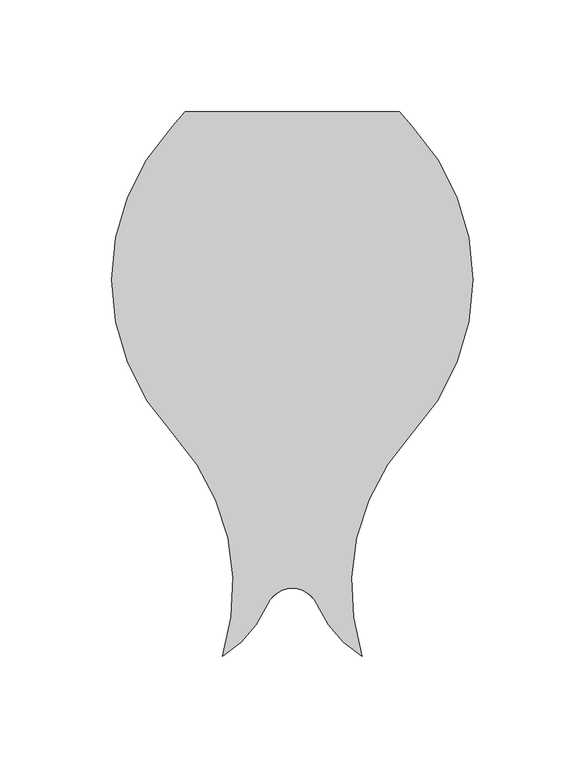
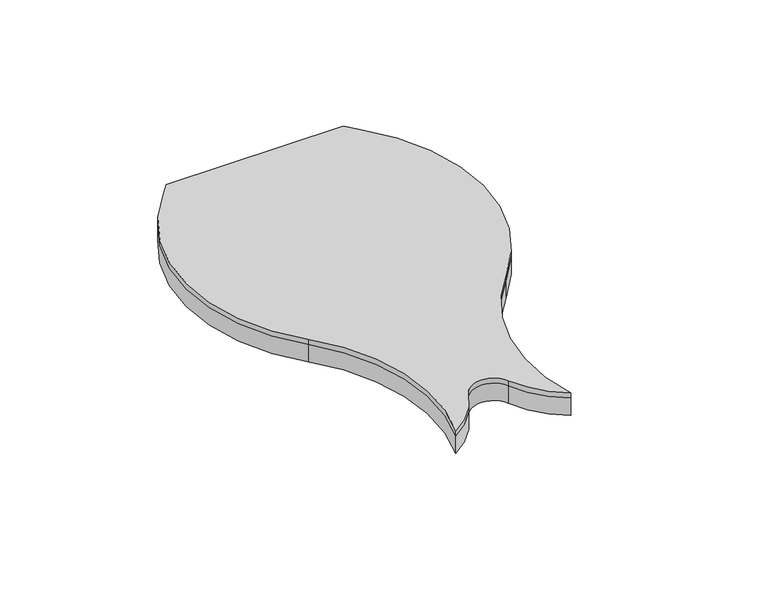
"""IFC4 building model written with IfcOpenShell, lengths in millimetres: proxy geometry, FilzFelt_Fish_Block : Fish Block."""

from ifc_helpers import new_model, si_unit, frame, origin, place, context, project, spatial, polyline, circle_curve, source, transform, mapped, element, save
from ifc_brep_helpers import plane_surface, cylinder_surface, revolved_surface, advanced_brep


def specialty_equipment_c6b61611(model_context):
    return source(origin(), model_context, "Body", "AdvancedBrep", [
        advanced_brep(
        [(53.5486457, 68.6120133, 10.0210937), (53.5486457, -68.6120133, 10.0210937), (31.2619065, -168.1141956, 10.0210937), (11.0103348, -145.0347036, 10.0210937), (-11.0103348, -145.0347036, 10.0210937), (-31.2619065, -168.1141956, 10.0210937), (-53.5486457, -68.6120133, 10.0210937), (-80.7142226, 0.0, 10.0210937), (-53.5486457, 68.6120133, 10.0210937), (-47.9842821, 75.0666515, 10.0210937), (47.9842821, 75.0666515, 10.0210937), (-53.5486457, -68.6120133, 12.9976563), (-31.2619065, -168.1141956, 12.9976563), (-11.0103348, -145.0347036, 12.9976563), (11.0103348, -145.0347036, 12.9976563), (31.2619065, -168.1141956, 12.9976563), (53.5486457, -68.6120133, 12.9976563), (80.7142226, 0.0, 12.9976563), (53.5486457, 68.6120133, 12.9976563), (47.9842821, 75.0666515, 12.9976563), (-47.9842821, 75.0666515, 12.9976563), (-53.5486457, 68.6120133, 12.9976563), (-80.7142226, 0.0, 12.9976563)],
        [
            (0, 1, circle_curve(frame((-19.5151403, 0.0, 10.0210937), z_axis=(0.0, 0.0, -1.0), x_axis=(-1.0, 0.0, 0.0)), 100.2293629)),
            (1, 2, circle_curve(frame((126.6124317, -137.2240266, 10.0210937), z_axis=(0.0, 0.0, 1.0), x_axis=(-1.0, 0.0, 0.0)), 100.2293629)),
            (2, 3, circle_curve(frame((57.9263497, -124.2921115, 10.0210937), z_axis=(0.0, 0.0, -1.0), x_axis=(-1.0, 0.0, 0.0)), 51.2968574)),
            (3, 4, circle_curve(frame((0.0, -149.9026124, 10.0210937), z_axis=(0.0, 0.0, 1.0), x_axis=(-1.0, 0.0, 0.0)), 12.0384388)),
            (4, 5, circle_curve(frame((-57.9263497, -124.2921115, 10.0210937), z_axis=(0.0, 0.0, -1.0), x_axis=(-1.0, 0.0, 0.0)), 51.2968574)),
            (5, 6, circle_curve(frame((-126.6124317, -137.2240266, 10.0210937), z_axis=(0.0, 0.0, 1.0), x_axis=(-1.0, 0.0, 0.0)), 100.2293629)),
            (6, 7, circle_curve(frame((19.5151403, 0.0, 10.0210937), z_axis=(0.0, 0.0, -1.0), x_axis=(-1.0, 0.0, 0.0)), 100.2293629)),
            (7, 8, circle_curve(frame((19.5151403, 0.0, 10.0210937), z_axis=(0.0, 0.0, -1.0), x_axis=(-1.0, 0.0, 0.0)), 100.2293629)),
            (8, 9, circle_curve(frame((-126.6124317, 137.2240266, 10.0210937), z_axis=(0.0, 0.0, 1.0), x_axis=(-1.0, 0.0, 0.0)), 100.2293629)),
            (9, 10),
            (10, 0, circle_curve(frame((126.6124317, 137.2240266, 10.0210937), z_axis=(0.0, 0.0, 1.0), x_axis=(-1.0, 0.0, 0.0)), 100.2293629)),
            (11, 12, circle_curve(frame((-126.6124317, -137.2240266, 12.9976563), z_axis=(0.0, 0.0, -1.0), x_axis=(-1.0, 0.0, 0.0)), 100.2293629)),
            (12, 13, circle_curve(frame((-57.9263497, -124.2921115, 12.9976563), z_axis=(0.0, 0.0, 1.0), x_axis=(-1.0, 0.0, 0.0)), 51.2968574)),
            (13, 14, circle_curve(frame((0.0, -149.9026124, 12.9976563), z_axis=(0.0, 0.0, -1.0), x_axis=(-1.0, 0.0, 0.0)), 12.0384388)),
            (14, 15, circle_curve(frame((57.9263497, -124.2921115, 12.9976563), z_axis=(0.0, 0.0, 1.0), x_axis=(-1.0, 0.0, 0.0)), 51.2968574)),
            (15, 16, circle_curve(frame((126.6124317, -137.2240266, 12.9976563), z_axis=(0.0, 0.0, -1.0), x_axis=(-1.0, 0.0, 0.0)), 100.2293629)),
            (16, 17, circle_curve(frame((-19.5151403, 0.0, 12.9976563), z_axis=(0.0, 0.0, 1.0), x_axis=(-1.0, 0.0, 0.0)), 100.2293629)),
            (17, 18, circle_curve(frame((-19.5151403, 0.0, 12.9976563), z_axis=(0.0, 0.0, 1.0), x_axis=(-1.0, 0.0, 0.0)), 100.2293629)),
            (18, 19, circle_curve(frame((126.6124317, 137.2240266, 12.9976563), z_axis=(0.0, 0.0, -1.0), x_axis=(-1.0, 0.0, 0.0)), 100.2293629)),
            (19, 20),
            (20, 21, circle_curve(frame((-126.6124317, 137.2240266, 12.9976563), z_axis=(0.0, 0.0, -1.0), x_axis=(-1.0, 0.0, 0.0)), 100.2293629)),
            (21, 22, circle_curve(frame((19.5151403, 0.0, 12.9976563), z_axis=(0.0, 0.0, 1.0), x_axis=(-1.0, 0.0, 0.0)), 100.2293629)),
            (22, 11, circle_curve(frame((19.5151403, 0.0, 12.9976563), z_axis=(0.0, 0.0, 1.0), x_axis=(-1.0, 0.0, 0.0)), 100.2293629)),
            (0, 18),
            (16, 1),
            (15, 2),
            (14, 3),
            (13, 4),
            (12, 5),
            (11, 6),
            (21, 8),
            (20, 9),
            (10, 19),
        ],
        [
            plane_surface(frame((0.0, 0.0, 10.0210937), z_axis=(0.0, 0.0, -1.0), x_axis=(0.0, -1.0, 0.0))),
            plane_surface(frame((0.0, 0.0, 12.9976563), z_axis=(0.0, 0.0, 1.0), x_axis=(0.0, -1.0, 0.0))),
            cylinder_surface(frame((-19.5151403, 0.0, 10.0210937), z_axis=(0.0, 0.0, -1.0), x_axis=(-1.0, 0.0, 0.0)), 100.2293629),
            revolved_surface(polyline([(26.383068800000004, -137.2240266, 12.9976563), (26.383068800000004, -137.2240266, 10.0210937)]), (126.6124317, -137.2240266, 10.0210937), (0.0, 0.0, 1.0)),
            cylinder_surface(frame((57.9263497, -124.2921115, 10.0210937), z_axis=(0.0, 0.0, -1.0), x_axis=(-1.0, 0.0, 0.0)), 51.2968574),
            revolved_surface(polyline([(-12.0384388, -149.9026124, 12.9976563), (-12.0384388, -149.9026124, 10.0210937)]), (0.0, -149.9026124, 10.0210937), (0.0, 0.0, 1.0)),
            cylinder_surface(frame((-57.9263497, -124.2921115, 10.0210937), z_axis=(0.0, 0.0, -1.0), x_axis=(-1.0, 0.0, 0.0)), 51.2968574),
            revolved_surface(polyline([(-226.84179460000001, -137.2240266, 12.9976563), (-226.84179460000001, -137.2240266, 10.0210937)]), (-126.6124317, -137.2240266, 10.0210937), (0.0, 0.0, 1.0)),
            cylinder_surface(frame((19.5151403, 0.0, 10.0210937), z_axis=(0.0, 0.0, -1.0), x_axis=(-1.0, 0.0, 0.0)), 100.2293629),
            revolved_surface(polyline([(-226.84179460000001, 137.2240266, 12.9976563), (-226.84179460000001, 137.2240266, 10.0210937)]), (-126.6124317, 137.2240266, 10.0210937), (0.0, 0.0, 1.0)),
            revolved_surface(polyline([(26.383068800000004, 137.2240266, 12.9976563), (26.383068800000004, 137.2240266, 10.0210937)]), (126.6124317, 137.2240266, 10.0210937), (0.0, 0.0, 1.0)),
            plane_surface(frame((-112.4642226, 75.0666515, 12.9976562), z_axis=(0.0, 1.0, 0.0), x_axis=(-1.0, 0.0, 0.0))),
        ],
        [
            (0, [[1, 2, 3, 4, 5, 6, 7, 8, 9, 10, 11]]),
            (1, [[12, 13, 14, 15, 16, 17, 18, 19, 20, 21, 22, 23]]),
            (2, [[-1, 24, -18, -17, 25]]),
            (3, [[-2, -25, -16, 26]]),
            (4, [[-3, -26, -15, 27]]),
            (5, [[-4, -27, -14, 28]]),
            (6, [[-5, -28, -13, 29]]),
            (7, [[-6, -29, -12, 30]]),
            (8, [[-30, -23, -22, 31, -8, -7]]),
            (9, [[-31, -21, 32, -9]]),
            (10, [[-24, -11, 33, -19]]),
            (11, [[-10, -32, -20, -33]]),
        ],
    ),
        advanced_brep(
        [(31.2619065, -168.1141956, 0.0), (11.0103348, -145.0347036, 0.0), (-11.0103348, -145.0347036, 0.0), (-31.2619065, -168.1141956, 0.0), (-53.5486457, -68.6120133, 0.0), (-80.7142226, 0.0, 0.0), (-53.5486457, 68.6120133, 0.0), (-47.9842821, 75.0666515, 0.0), (47.9842821, 75.0666515, 0.0), (53.5486457, 68.6120133, 0.0), (80.7142226, 0.0, 0.0), (53.5486457, -68.6120133, 0.0), (31.2619065, -168.1141956, 10.0210937), (53.5486457, -68.6120133, 10.0210937), (53.5486457, 68.6120133, 10.0210937), (47.9842821, 75.0666515, 10.0210937), (-47.9842821, 75.0666515, 10.0210937), (-53.5486457, 68.6120133, 10.0210937), (-80.7142226, 0.0, 10.0210937), (-53.5486457, -68.6120133, 10.0210937), (-31.2619065, -168.1141956, 10.0210937), (-11.0103348, -145.0347036, 10.0210937), (11.0103348, -145.0347036, 10.0210937)],
        [
            (0, 1, circle_curve(frame((57.9263497, -124.2921115, 0.0), z_axis=(0.0, 0.0, -1.0), x_axis=(-1.0, 0.0, 0.0)), 51.2968574)),
            (1, 2, circle_curve(frame((0.0, -149.9026124, 0.0), z_axis=(0.0, 0.0, 1.0), x_axis=(-1.0, 0.0, 0.0)), 12.0384388)),
            (2, 3, circle_curve(frame((-57.9263497, -124.2921115, 0.0), z_axis=(0.0, 0.0, -1.0), x_axis=(-1.0, 0.0, 0.0)), 51.2968574)),
            (3, 4, circle_curve(frame((-126.6124317, -137.2240266, 0.0), z_axis=(0.0, 0.0, 1.0), x_axis=(-1.0, 0.0, 0.0)), 100.2293629)),
            (4, 5, circle_curve(frame((19.5151403, 0.0, 0.0), z_axis=(0.0, 0.0, -1.0), x_axis=(-1.0, 0.0, 0.0)), 100.2293629)),
            (5, 6, circle_curve(frame((19.5151403, 0.0, 0.0), z_axis=(0.0, 0.0, -1.0), x_axis=(-1.0, 0.0, 0.0)), 100.2293629)),
            (6, 7, circle_curve(frame((-126.6124317, 137.2240266, 0.0), z_axis=(0.0, 0.0, 1.0), x_axis=(-1.0, 0.0, 0.0)), 100.2293629)),
            (7, 8),
            (8, 9, circle_curve(frame((126.6124317, 137.2240266, 0.0), z_axis=(0.0, 0.0, 1.0), x_axis=(-1.0, 0.0, 0.0)), 100.2293629)),
            (9, 10, circle_curve(frame((-19.5151403, 0.0, 0.0), z_axis=(0.0, 0.0, -1.0), x_axis=(-1.0, 0.0, 0.0)), 100.2293629)),
            (10, 11, circle_curve(frame((-19.5151403, 0.0, 0.0), z_axis=(0.0, 0.0, -1.0), x_axis=(-1.0, 0.0, 0.0)), 100.2293629)),
            (11, 0, circle_curve(frame((126.6124317, -137.2240266, 0.0), z_axis=(0.0, 0.0, 1.0), x_axis=(-1.0, 0.0, 0.0)), 100.2293629)),
            (12, 13, circle_curve(frame((126.6124317, -137.2240266, 10.0210937), z_axis=(0.0, 0.0, -1.0), x_axis=(-1.0, 0.0, 0.0)), 100.2293629)),
            (13, 14, circle_curve(frame((-19.5151403, 0.0, 10.0210937), z_axis=(0.0, 0.0, 1.0), x_axis=(-1.0, 0.0, 0.0)), 100.2293629)),
            (14, 15, circle_curve(frame((126.6124317, 137.2240266, 10.0210937), z_axis=(0.0, 0.0, -1.0), x_axis=(-1.0, 0.0, 0.0)), 100.2293629)),
            (15, 16),
            (16, 17, circle_curve(frame((-126.6124317, 137.2240266, 10.0210937), z_axis=(0.0, 0.0, -1.0), x_axis=(-1.0, 0.0, 0.0)), 100.2293629)),
            (17, 18, circle_curve(frame((19.5151403, 0.0, 10.0210937), z_axis=(0.0, 0.0, 1.0), x_axis=(-1.0, 0.0, 0.0)), 100.2293629)),
            (18, 19, circle_curve(frame((19.5151403, 0.0, 10.0210937), z_axis=(0.0, 0.0, 1.0), x_axis=(-1.0, 0.0, 0.0)), 100.2293629)),
            (19, 20, circle_curve(frame((-126.6124317, -137.2240266, 10.0210937), z_axis=(0.0, 0.0, -1.0), x_axis=(-1.0, 0.0, 0.0)), 100.2293629)),
            (20, 21, circle_curve(frame((-57.9263497, -124.2921115, 10.0210937), z_axis=(0.0, 0.0, 1.0), x_axis=(-1.0, 0.0, 0.0)), 51.2968574)),
            (21, 22, circle_curve(frame((0.0, -149.9026124, 10.0210937), z_axis=(0.0, 0.0, -1.0), x_axis=(-1.0, 0.0, 0.0)), 12.0384388)),
            (22, 12, circle_curve(frame((57.9263497, -124.2921115, 10.0210937), z_axis=(0.0, 0.0, 1.0), x_axis=(-1.0, 0.0, 0.0)), 51.2968574)),
            (0, 12),
            (22, 1),
            (21, 2),
            (20, 3),
            (19, 4),
            (17, 6),
            (16, 7),
            (14, 9),
            (8, 15),
            (13, 11),
        ],
        [
            plane_surface(frame((0.0, 0.0, 0.0), z_axis=(0.0, 0.0, -1.0), x_axis=(0.0, -1.0, 0.0))),
            plane_surface(frame((0.0, 0.0, 10.0210937), z_axis=(0.0, 0.0, 1.0), x_axis=(0.0, -1.0, 0.0))),
            cylinder_surface(frame((57.9263497, -124.2921115, 0.0), z_axis=(0.0, 0.0, -1.0), x_axis=(-1.0, 0.0, 0.0)), 51.2968574),
            revolved_surface(polyline([(-12.0384388, -149.9026124, 10.0210937), (-12.0384388, -149.9026124, 0.0)]), (0.0, -149.9026124, 0.0), (0.0, 0.0, 1.0)),
            cylinder_surface(frame((-57.9263497, -124.2921115, 0.0), z_axis=(0.0, 0.0, -1.0), x_axis=(-1.0, 0.0, 0.0)), 51.2968574),
            revolved_surface(polyline([(-226.84179460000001, -137.2240266, 10.0210937), (-226.84179460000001, -137.2240266, 0.0)]), (-126.6124317, -137.2240266, 0.0), (0.0, 0.0, 1.0)),
            cylinder_surface(frame((19.5151403, 0.0, 0.0), z_axis=(0.0, 0.0, -1.0), x_axis=(-1.0, 0.0, 0.0)), 100.2293629),
            revolved_surface(polyline([(-226.84179460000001, 137.2240266, 10.0210937), (-226.84179460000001, 137.2240266, 0.0)]), (-126.6124317, 137.2240266, 0.0), (0.0, 0.0, 1.0)),
            revolved_surface(polyline([(26.383068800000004, 137.2240266, 10.0210937), (26.383068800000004, 137.2240266, 0.0)]), (126.6124317, 137.2240266, 0.0), (0.0, 0.0, 1.0)),
            cylinder_surface(frame((-19.5151403, 0.0, 0.0), z_axis=(0.0, 0.0, -1.0), x_axis=(-1.0, 0.0, 0.0)), 100.2293629),
            revolved_surface(polyline([(26.383068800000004, -137.2240266, 10.0210937), (26.383068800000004, -137.2240266, 0.0)]), (126.6124317, -137.2240266, 0.0), (0.0, 0.0, 1.0)),
            plane_surface(frame((-112.4642226, 75.0666515, 12.9976562), z_axis=(0.0, 1.0, 0.0), x_axis=(-1.0, 0.0, 0.0))),
        ],
        [
            (0, [[1, 2, 3, 4, 5, 6, 7, 8, 9, 10, 11, 12]]),
            (1, [[13, 14, 15, 16, 17, 18, 19, 20, 21, 22, 23]]),
            (2, [[-1, 24, -23, 25]]),
            (3, [[-2, -25, -22, 26]]),
            (4, [[-3, -26, -21, 27]]),
            (5, [[-4, -27, -20, 28]]),
            (6, [[-28, -19, -18, 29, -6, -5]]),
            (7, [[-29, -17, 30, -7]]),
            (8, [[31, -9, 32, -15]]),
            (9, [[-14, 33, -11, -10, -31]]),
            (10, [[-12, -33, -13, -24]]),
            (11, [[-8, -30, -16, -32]]),
        ],
    ),
    ])


if __name__ == "__main__":
    model = new_model("IFC4")
    model_context = context("Model", 3, world=origin())
    ifc_project = project(units=[si_unit("LENGTHUNIT", "METRE", prefix="MILLI")], contexts=[model_context])
    site = spatial("IfcSite", under=ifc_project)
    building = spatial("IfcBuilding", under=site)
    placement = place(None, origin())
    specialty_equipment_shape = specialty_equipment_c6b61611(model_context)
    element("IfcBuildingElementProxy", 1, Name="FilzFelt_Fish_Block : Fish Block", ObjectType="FilzFelt_Fish_Block : Fish Block", at=placement, inside=building, context=model_context, shape_type="MappedRepresentation", body=[
        mapped(specialty_equipment_shape, transform((0.0, 0.0, 0.0), x_axis=(1.0, 0.0, 0.0), y_axis=(0.0, 1.0, 0.0), z_axis=(0.0, 0.0, 1.0))),
    ])
    save(model, "model.ifc")
